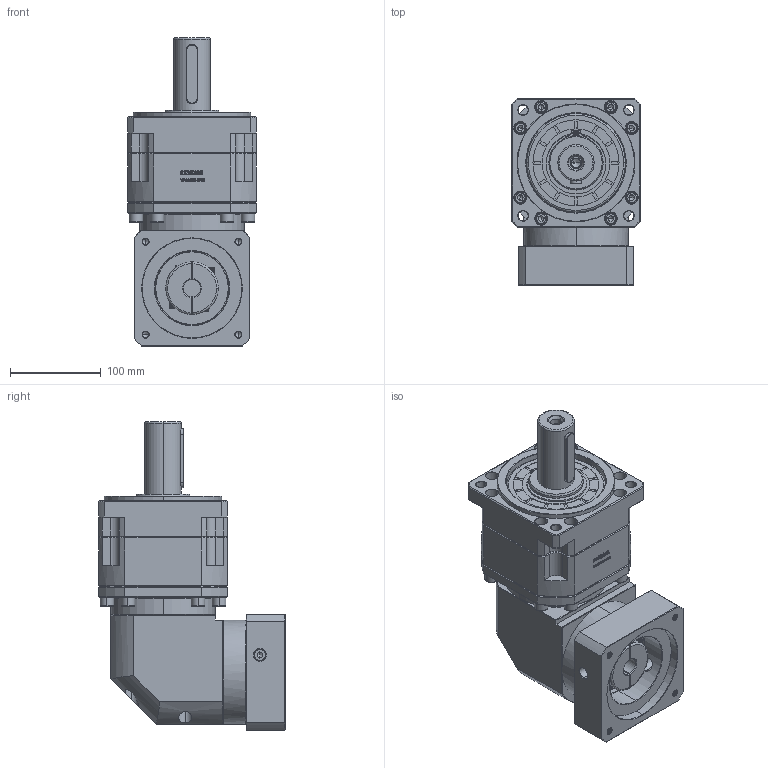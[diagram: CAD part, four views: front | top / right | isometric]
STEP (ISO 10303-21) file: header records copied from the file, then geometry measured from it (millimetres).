
FILE_DESCRIPTION (( 'STEP AP214' ), '1' );
FILE_NAME ('ZBR142A-D40-L2-19-110-145-M8.step', '2023-03-20T04:10:24', ( '' ), ( '' ), 'SwSTEP 2.0', 'SolidWorks 2016', '' );
FILE_SCHEMA (( 'AUTOMOTIVE_DESIGN' ));
Length unit declared in the file: millimetre
Products named in the file (1): ZBR142A-D40-L2-19-110-145-M8
Bounding box: 142 x 205.9 x 340.2 mm (x, y, z)
Volume: 4477322.8 mm3; surface area: 325102.8 mm2
Topology: 6 solids, 6 shells, 3191 faces, 8406 edges, 5383 vertices
Faces by surface type: plane 1652, bspline 593, cylinder 502, cone 398, torus 46
Entity records: 170716 total; most frequent: CARTESIAN_POINT 61477, ORIENTED_EDGE 16704, DIRECTION 13069, EDGE_CURVE 8352, LINE 5589, VECTOR 5589, VERTEX_POINT 5383, AXIS2_PLACEMENT_3D 3740
